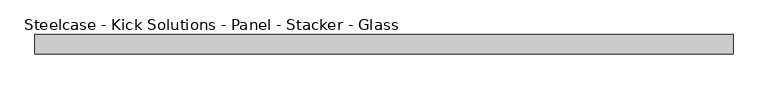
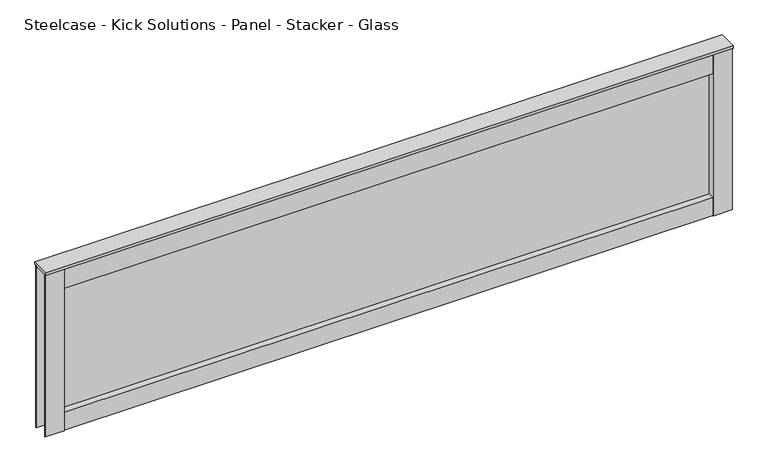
"""IFC4 building model written with IfcOpenShell, lengths in millimetres: furniture geometry, Steelcase - Kick Solutions - Panel - Stacker - Glass : 18H x 72W."""

from ifc_helpers import new_model, si_unit, frame, origin, place, context, project, spatial, polyline, outline, extrude, source, transform, mapped, element, save


def steelcase_kick_solutions_panel_stacker_glass_738abc07(model_context):
    return source(origin(), model_context, "Body", "SweptSolid", [
        extrude(outline(polyline([(1778.0006661, -5.08), (1778.0006661, -45.7200015), (50.8006646, -45.7200015), (50.8006646, -5.08), (1778.0006661, -5.08)])), frame((0.0, 0.0, 1066.8), z_axis=(0.0, 0.0, 1.0), x_axis=(1.0, 0.0, 0.0)), (0.0, 0.0, 1.0), 50.6830951),
        extrude(outline(polyline([(1778.0006661, -5.08), (1778.0006661, -45.7200015), (50.8006646, -45.7200015), (50.8006646, -5.08), (1778.0006661, -5.08)])), frame((0.0, 0.0, 1466.85), z_axis=(0.0, 0.0, 1.0), x_axis=(1.0, 0.0, 0.0)), (0.0, 0.0, 1.0), 57.15),
        extrude(outline(polyline([(50.8006646, -3.1743148), (50.8006646, -47.6243142), (0.0, -47.6243142), (0.0, -45.7200015), (47.7526646, -45.7200015), (47.7526646, -5.08), (0.0, -5.08), (0.0, -3.1743148), (50.8006646, -3.1743148)])), frame((0.0, 0.0, 1066.8), z_axis=(0.0, 0.0, 1.0), x_axis=(1.0, 0.0, 0.0)), (0.0, 0.0, 1.0), 457.2),
        extrude(outline(polyline([(1778.0006661, -3.1743148), (1828.8, -3.1743148), (1828.8, -5.08), (1781.0486661, -5.08), (1781.0486661, -45.7200015), (1828.8, -45.7200015), (1828.8, -47.6243142), (1778.0006661, -47.6243142), (1778.0006661, -3.1743148)])), frame((0.0, 0.0, 1066.8), z_axis=(0.0, 0.0, 1.0), x_axis=(1.0, 0.0, 0.0)), (0.0, 0.0, 1.0), 457.2),
        extrude(outline(polyline([(1778.0006661, -28.422537), (50.8006646, -28.422537), (50.8006646, -25.4), (1778.0006661, -25.4), (1778.0006661, -28.422537)])), frame((0.0, 0.0, 1117.4830951), z_axis=(0.0, 0.0, 1.0), x_axis=(1.0, 0.0, 0.0)), (0.0, 0.0, 1.0), 349.3669049),
        extrude(outline(polyline([(1828.8, 0.0), (1828.8, -50.8000015), (0.0, -50.8000015), (0.0, 0.0), (1828.8, 0.0)])), frame((0.0, 0.0, 1524.0), z_axis=(0.0, 0.0, 1.0), x_axis=(1.0, 0.0, 0.0)), (0.0, 0.0, 1.0), 6.35),
    ])


if __name__ == "__main__":
    model = new_model("IFC4")
    model_context = context("Model", 3, world=origin())
    ifc_project = project(units=[si_unit("LENGTHUNIT", "METRE", prefix="MILLI")], contexts=[model_context])
    site = spatial("IfcSite", under=ifc_project)
    building = spatial("IfcBuilding", under=site)
    placement = place(None, origin())
    steelcase_kick_solutions_panel_stacker_glass_shape = steelcase_kick_solutions_panel_stacker_glass_738abc07(model_context)
    element("IfcFurniture", 1, ObjectType="Steelcase - Kick Solutions - Panel - Stacker - Glass : 18H x 72W", at=placement, inside=building, context=model_context, shape_type="MappedRepresentation", body=[
        mapped(steelcase_kick_solutions_panel_stacker_glass_shape, transform((0.0, 0.0, 0.0), x_axis=(1.0, 0.0, 0.0), y_axis=(0.0, 1.0, 0.0), z_axis=(0.0, 0.0, 1.0))),
    ])
    save(model, "model.ifc")
